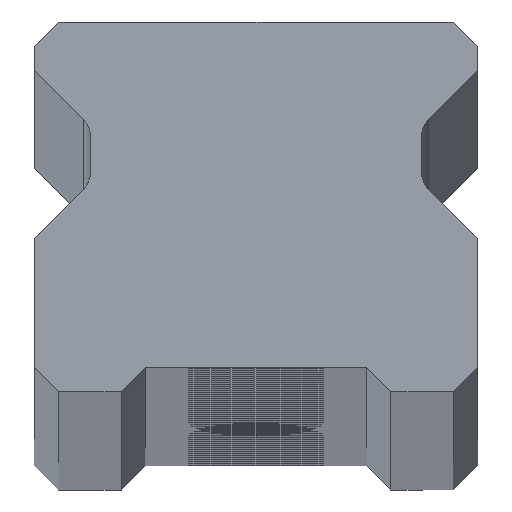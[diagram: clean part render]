
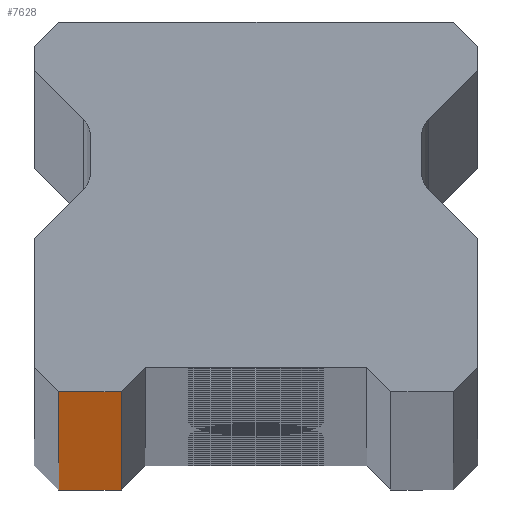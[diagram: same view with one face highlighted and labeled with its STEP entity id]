
A CAD part, top view. The second image highlights one B-rep face of the part: STEP entity #7628.
In plain terms, the highlighted planar face has unit normal (0, -1, 0).
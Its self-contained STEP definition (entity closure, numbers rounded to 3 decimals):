
#73 = LINE ( 'NONE', #2025, #8327 ) ;
#469 = LINE ( 'NONE', #5992, #5805 ) ;
#484 = LINE ( 'NONE', #927, #4391 ) ;
#927 = CARTESIAN_POINT ( 'NONE',  ( -10.25, 0., 1460. ) ) ;
#1161 = EDGE_CURVE ( 'NONE', #7282, #7544, #484, .T. ) ;
#1465 = PLANE ( 'NONE',  #5108 ) ;
#1561 = CARTESIAN_POINT ( 'NONE',  ( 11.5, 0., 1460. ) ) ;
#1766 = ORIENTED_EDGE ( 'NONE', *, *, #7163, .F. ) ;
#2025 = CARTESIAN_POINT ( 'NONE',  ( -7., 0., -1460. ) ) ;
#2072 = DIRECTION ( 'NONE',  ( 1., 0., 0. ) ) ;
#2107 = CARTESIAN_POINT ( 'NONE',  ( -7., 0., -1460. ) ) ;
#2157 = EDGE_CURVE ( 'NONE', #7468, #6481, #73, .T. ) ;
#2250 = CARTESIAN_POINT ( 'NONE',  ( 11.5, 0., 1460. ) ) ;
#2268 = EDGE_CURVE ( 'NONE', #7544, #7468, #469, .T. ) ;
#2621 = LINE ( 'NONE', #1561, #7617 ) ;
#3395 = DIRECTION ( 'NONE',  ( 0., 0., 1. ) ) ;
#3530 = FACE_OUTER_BOUND ( 'NONE', #7274, .T. ) ;
#4072 = ORIENTED_EDGE ( 'NONE', *, *, #1161, .T. ) ;
#4251 = CARTESIAN_POINT ( 'NONE',  ( -10.25, 0., 1460. ) ) ;
#4391 = VECTOR ( 'NONE', #7558, 1000. ) ;
#4576 = ORIENTED_EDGE ( 'NONE', *, *, #2268, .T. ) ;
#5108 = AXIS2_PLACEMENT_3D ( 'NONE', #2250, #7991, #7400 ) ;
#5776 = ORIENTED_EDGE ( 'NONE', *, *, #2157, .T. ) ;
#5805 = VECTOR ( 'NONE', #2072, 1000. ) ;
#5992 = CARTESIAN_POINT ( 'NONE',  ( 11.5, 0., -1460. ) ) ;
#6240 = DIRECTION ( 'NONE',  ( 1., 0., 0. ) ) ;
#6251 = CARTESIAN_POINT ( 'NONE',  ( -7., 0., 1460. ) ) ;
#6481 = VERTEX_POINT ( 'NONE', #6251 ) ;
#7163 = EDGE_CURVE ( 'NONE', #7282, #6481, #2621, .T. ) ;
#7274 = EDGE_LOOP ( 'NONE', ( #4576, #5776, #1766, #4072 ) ) ;
#7282 = VERTEX_POINT ( 'NONE', #4251 ) ;
#7400 = DIRECTION ( 'NONE',  ( -1., 0., 0. ) ) ;
#7468 = VERTEX_POINT ( 'NONE', #2107 ) ;
#7544 = VERTEX_POINT ( 'NONE', #7799 ) ;
#7558 = DIRECTION ( 'NONE',  ( 0., 0., -1. ) ) ;
#7617 = VECTOR ( 'NONE', #6240, 1000. ) ;
#7628 = ADVANCED_FACE ( 'NONE', ( #3530 ), #1465, .F. ) ;
#7799 = CARTESIAN_POINT ( 'NONE',  ( -10.25, 0., -1460. ) ) ;
#7991 = DIRECTION ( 'NONE',  ( 0., 1., 0. ) ) ;
#8327 = VECTOR ( 'NONE', #3395, 1000. ) ;
